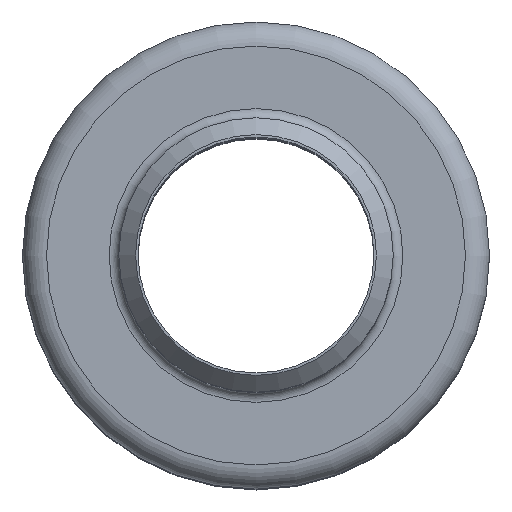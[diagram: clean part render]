
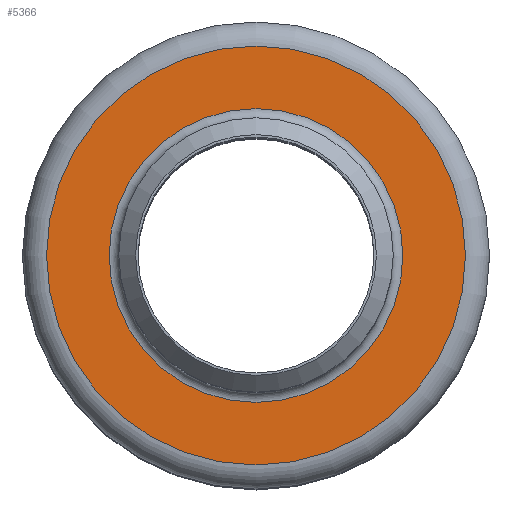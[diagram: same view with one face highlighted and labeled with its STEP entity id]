
A CAD part, top view. The second image highlights one B-rep face of the part: STEP entity #5366.
In plain terms, the highlighted planar face has unit normal (0, 0, 1).
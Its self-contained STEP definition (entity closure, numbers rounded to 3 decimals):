
#194=FACE_BOUND('',#978,.T.);
#318=PLANE('',#5770);
#651=FACE_OUTER_BOUND('',#977,.T.);
#977=EDGE_LOOP('',(#4471));
#978=EDGE_LOOP('',(#4472));
#1781=CIRCLE('',#5765,30.5);
#1785=CIRCLE('',#5771,43.5);
#2485=VERTEX_POINT('',#11701);
#2488=VERTEX_POINT('',#11712);
#3164=EDGE_CURVE('',#2485,#2485,#1781,.T.);
#3169=EDGE_CURVE('',#2488,#2488,#1785,.T.);
#4471=ORIENTED_EDGE('',*,*,#3169,.F.);
#4472=ORIENTED_EDGE('',*,*,#3164,.F.);
#5366=ADVANCED_FACE('',(#651,#194),#318,.F.);
#5765=AXIS2_PLACEMENT_3D('',#11703,#6862,#6863);
#5770=AXIS2_PLACEMENT_3D('',#11711,#6873,#6874);
#5771=AXIS2_PLACEMENT_3D('',#11713,#6875,#6876);
#6862=DIRECTION('center_axis',(0.,0.,1.));
#6863=DIRECTION('ref_axis',(0.,-1.,0.));
#6873=DIRECTION('center_axis',(0.,0.,-1.));
#6874=DIRECTION('ref_axis',(-1.,0.,0.));
#6875=DIRECTION('center_axis',(0.,0.,-1.));
#6876=DIRECTION('ref_axis',(1.,0.,0.));
#11701=CARTESIAN_POINT('',(30.5,0.,57.5));
#11703=CARTESIAN_POINT('Origin',(0.,0.,57.5));
#11711=CARTESIAN_POINT('Origin',(0.,28.5,57.5));
#11712=CARTESIAN_POINT('',(43.5,0.,57.5));
#11713=CARTESIAN_POINT('Origin',(0.,0.,57.5));
